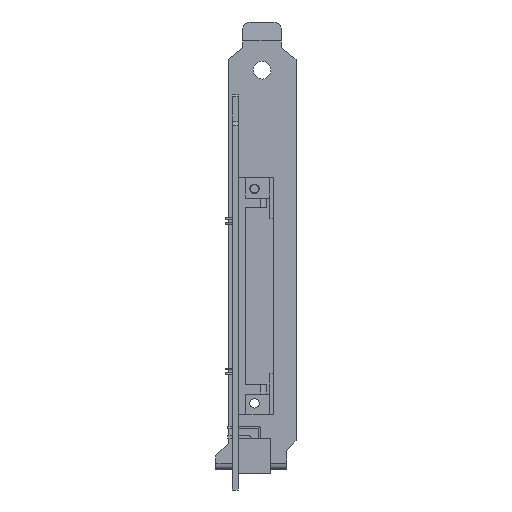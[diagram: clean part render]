
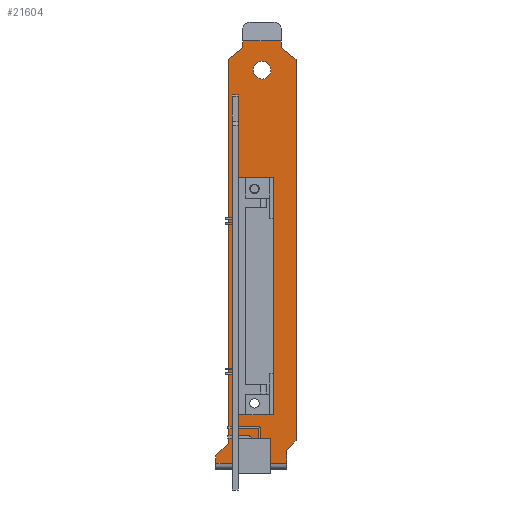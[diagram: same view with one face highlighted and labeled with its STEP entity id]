
A CAD part, front view. The second image highlights one B-rep face of the part: STEP entity #21604.
In plain terms, the highlighted planar face has unit normal (0, -1, 0).
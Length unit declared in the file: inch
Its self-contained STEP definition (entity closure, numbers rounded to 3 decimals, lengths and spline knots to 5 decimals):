
#6535=DIRECTION('',(1.,0.,0.));
#6536=VECTOR('',#6535,0.41339);
#6537=CARTESIAN_POINT('',(0.02204,0.33,-0.68713));
#6538=LINE('',#6537,#6536);
#6575=DIRECTION('',(1.,0.,0.));
#6576=VECTOR('',#6575,0.412);
#6577=CARTESIAN_POINT('',(0.108,0.33,0.764));
#6578=LINE('',#6577,#6576);
#6579=DIRECTION('',(0.,0.,-1.));
#6580=VECTOR('',#6579,0.074);
#6581=CARTESIAN_POINT('',(0.52,0.33,0.764));
#6582=LINE('',#6581,#6580);
#6583=DIRECTION('',(-0.788,0.,0.616));
#6584=VECTOR('',#6583,0.1967);
#6585=CARTESIAN_POINT('',(0.675,0.33,0.5689));
#6586=LINE('',#6585,#6584);
#6587=DIRECTION('',(0.707,0.,0.707));
#6588=VECTOR('',#6587,0.14142);
#6589=CARTESIAN_POINT('',(0.575,0.33,-3.583));
#6590=LINE('',#6589,#6588);
#6591=DIRECTION('',(0.,0.,1.));
#6592=VECTOR('',#6591,0.137);
#6593=CARTESIAN_POINT('',(0.575,0.33,-3.72));
#6594=LINE('',#6593,#6592);
#6595=DIRECTION('',(-1.,0.,0.));
#6596=VECTOR('',#6595,0.75);
#6597=CARTESIAN_POINT('',(0.575,0.33,-3.72));
#6598=LINE('',#6597,#6596);
#6599=DIRECTION('',(-0.707,0.,-0.707));
#6600=VECTOR('',#6599,0.18102);
#6601=CARTESIAN_POINT('',(-0.047,0.33,-3.514));
#6602=LINE('',#6601,#6600);
#6603=DIRECTION('',(0.,0.,-1.));
#6604=VECTOR('',#6603,4.0829);
#6605=CARTESIAN_POINT('',(-0.047,0.33,0.5689));
#6606=LINE('',#6605,#6604);
#6607=DIRECTION('',(-0.788,0.,-0.616));
#6608=VECTOR('',#6607,0.1967);
#6609=CARTESIAN_POINT('',(0.108,0.33,0.69));
#6610=LINE('',#6609,#6608);
#6611=DIRECTION('',(0.,0.,-1.));
#6612=VECTOR('',#6611,0.074);
#6613=CARTESIAN_POINT('',(0.108,0.33,0.764));
#6614=LINE('',#6613,#6612);
#6615=CARTESIAN_POINT('',(0.314,0.33,0.453));
#6616=DIRECTION('',(0.,1.,0.));
#6617=DIRECTION('',(0.,0.,1.));
#6618=AXIS2_PLACEMENT_3D('',#6615,#6616,#6617);
#6620=CARTESIAN_POINT('',(0.314,0.33,0.453));
#6621=DIRECTION('',(0.,1.,0.));
#6622=DIRECTION('',(0.,0.,-1.));
#6623=AXIS2_PLACEMENT_3D('',#6620,#6621,#6622);
#6671=DIRECTION('',(0.,0.,1.));
#6672=VECTOR('',#6671,0.078);
#6673=CARTESIAN_POINT('',(-0.175,0.33,-3.72));
#6674=LINE('',#6673,#6672);
#7023=DIRECTION('',(0.,0.,1.));
#7024=VECTOR('',#7023,4.0519);
#7025=CARTESIAN_POINT('',(0.675,0.33,-3.483));
#7026=LINE('',#7025,#7024);
#7974=DIRECTION('',(1.,0.,0.));
#7975=VECTOR('',#7974,0.41339);
#7976=CARTESIAN_POINT('',(0.02204,0.33,-3.20287));
#7977=LINE('',#7976,#7975);
#8014=DIRECTION('',(0.,0.,1.));
#8015=VECTOR('',#8014,2.51575);
#8016=CARTESIAN_POINT('',(0.02204,0.33,-3.20287));
#8017=LINE('',#8016,#8015);
#8221=DIRECTION('',(0.,0.,1.));
#8222=VECTOR('',#8221,2.51575);
#8223=CARTESIAN_POINT('',(0.43543,0.33,-3.20287));
#8224=LINE('',#8223,#8222);
#12500=CARTESIAN_POINT('',(-0.175,0.33,-3.72));
#12502=VERTEX_POINT('',#12500);
#12503=CARTESIAN_POINT('',(0.575,0.33,-3.72));
#12505=VERTEX_POINT('',#12503);
#12507=CARTESIAN_POINT('',(0.575,0.33,-3.583));
#12508=VERTEX_POINT('',#12507);
#12509=CARTESIAN_POINT('',(0.675,0.33,-3.483));
#12510=VERTEX_POINT('',#12509);
#12511=CARTESIAN_POINT('',(0.108,0.33,0.69));
#12512=CARTESIAN_POINT('',(-0.047,0.33,0.5689));
#12513=VERTEX_POINT('',#12511);
#12514=VERTEX_POINT('',#12512);
#12515=CARTESIAN_POINT('',(-0.047,0.33,-3.514));
#12516=VERTEX_POINT('',#12515);
#12517=CARTESIAN_POINT('',(-0.175,0.33,-3.642));
#12518=VERTEX_POINT('',#12517);
#12519=CARTESIAN_POINT('',(0.675,0.33,0.5689));
#12520=CARTESIAN_POINT('',(0.52,0.33,0.69));
#12521=VERTEX_POINT('',#12519);
#12522=VERTEX_POINT('',#12520);
#12631=CARTESIAN_POINT('',(0.314,0.33,0.5465));
#12632=CARTESIAN_POINT('',(0.314,0.33,0.3595));
#12633=VERTEX_POINT('',#12631);
#12634=VERTEX_POINT('',#12632);
#12635=CARTESIAN_POINT('',(0.108,0.33,0.764));
#12636=VERTEX_POINT('',#12635);
#12637=CARTESIAN_POINT('',(0.52,0.33,0.764));
#12638=VERTEX_POINT('',#12637);
#12667=CARTESIAN_POINT('',(0.02204,0.33,-3.20287));
#12668=CARTESIAN_POINT('',(0.43543,0.33,-3.20287));
#12669=VERTEX_POINT('',#12667);
#12670=VERTEX_POINT('',#12668);
#12671=CARTESIAN_POINT('',(0.02204,0.33,-0.68713));
#12672=CARTESIAN_POINT('',(0.43543,0.33,-0.68713));
#12673=VERTEX_POINT('',#12671);
#12674=VERTEX_POINT('',#12672);
#21558=CARTESIAN_POINT('',(0.675,0.33,-3.72));
#21559=DIRECTION('',(0.,1.,0.));
#21560=DIRECTION('',(0.,0.,1.));
#21561=AXIS2_PLACEMENT_3D('',#21558,#21559,#21560);
#21562=PLANE('',#21561);
#21564=ORIENTED_EDGE('',*,*,#21563,.T.);
#21566=ORIENTED_EDGE('',*,*,#21565,.T.);
#21568=ORIENTED_EDGE('',*,*,#21567,.F.);
#21570=ORIENTED_EDGE('',*,*,#21569,.F.);
#21572=ORIENTED_EDGE('',*,*,#21571,.F.);
#21574=ORIENTED_EDGE('',*,*,#21573,.F.);
#21576=ORIENTED_EDGE('',*,*,#21575,.T.);
#21578=ORIENTED_EDGE('',*,*,#21577,.T.);
#21580=ORIENTED_EDGE('',*,*,#21579,.F.);
#21582=ORIENTED_EDGE('',*,*,#21581,.F.);
#21584=ORIENTED_EDGE('',*,*,#21583,.F.);
#21586=ORIENTED_EDGE('',*,*,#21585,.F.);
#21587=EDGE_LOOP('',(#21564,#21566,#21568,#21570,#21572,#21574,#21576,#21578,
#21580,#21582,#21584,#21586));
#21588=FACE_OUTER_BOUND('',#21587,.F.);
#21590=ORIENTED_EDGE('',*,*,#21589,.F.);
#21592=ORIENTED_EDGE('',*,*,#21591,.F.);
#21593=EDGE_LOOP('',(#21590,#21592));
#21594=FACE_BOUND('',#21593,.F.);
#21596=ORIENTED_EDGE('',*,*,#21595,.T.);
#21598=ORIENTED_EDGE('',*,*,#21597,.T.);
#21599=ORIENTED_EDGE('',*,*,#21534,.F.);
#21601=ORIENTED_EDGE('',*,*,#21600,.F.);
#21602=EDGE_LOOP('',(#21596,#21598,#21599,#21601));
#21603=FACE_BOUND('',#21602,.F.);
#21604=ADVANCED_FACE('',(#21588,#21594,#21603),#21562,.F.);
#6619=CIRCLE('',#6618,0.0935);
#6624=CIRCLE('',#6623,0.0935);
#21534=EDGE_CURVE('',#12673,#12674,#6538,.T.);
#21563=EDGE_CURVE('',#12636,#12638,#6578,.T.);
#21565=EDGE_CURVE('',#12638,#12522,#6582,.T.);
#21567=EDGE_CURVE('',#12521,#12522,#6586,.T.);
#21569=EDGE_CURVE('',#12510,#12521,#7026,.T.);
#21571=EDGE_CURVE('',#12508,#12510,#6590,.T.);
#21573=EDGE_CURVE('',#12505,#12508,#6594,.T.);
#21575=EDGE_CURVE('',#12505,#12502,#6598,.T.);
#21577=EDGE_CURVE('',#12502,#12518,#6674,.T.);
#21579=EDGE_CURVE('',#12516,#12518,#6602,.T.);
#21581=EDGE_CURVE('',#12514,#12516,#6606,.T.);
#21583=EDGE_CURVE('',#12513,#12514,#6610,.T.);
#21585=EDGE_CURVE('',#12636,#12513,#6614,.T.);
#21589=EDGE_CURVE('',#12633,#12634,#6619,.T.);
#21591=EDGE_CURVE('',#12634,#12633,#6624,.T.);
#21595=EDGE_CURVE('',#12669,#12670,#7977,.T.);
#21597=EDGE_CURVE('',#12670,#12674,#8224,.T.);
#21600=EDGE_CURVE('',#12669,#12673,#8017,.T.);
